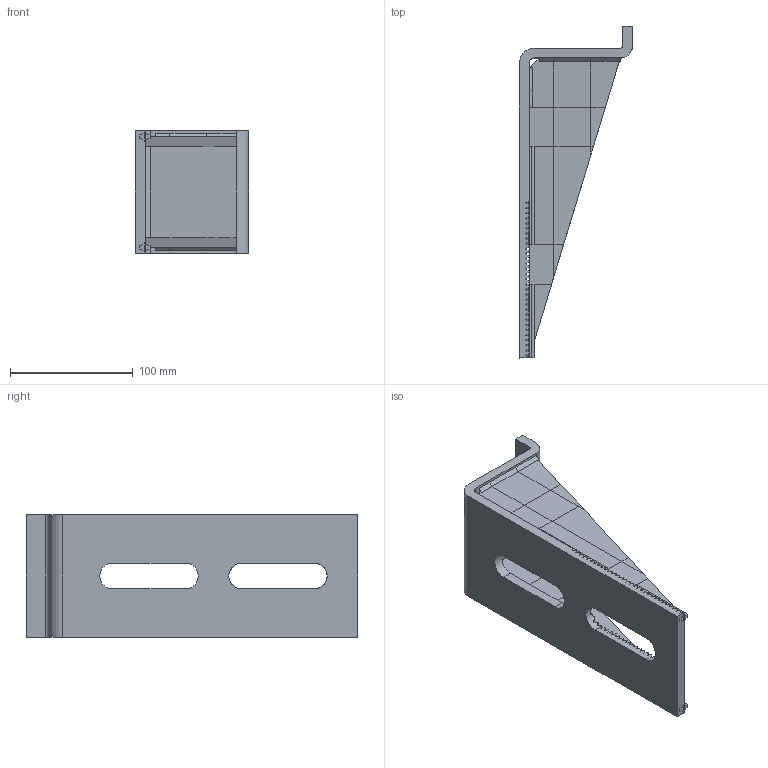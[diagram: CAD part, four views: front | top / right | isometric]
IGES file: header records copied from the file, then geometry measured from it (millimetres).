
Start section: 3D InterOp IGES (Version 26 1 0), Spatial Corp. Copyright (c) 1999-2007.
Global section: file name: MP6T.igs; native system: Spatial Corp.; preprocessor: 3D InterOp GENERIC/IGES 3.0; author: Noname; organization: Noname; date: 20181022.130440; units: millimetre
Bounding box: 92 x 270 x 100 mm (x, y, z)
Surface area: 140881.4 mm2 (no closed solid volume)
Topology: 0 solids, 0 shells, 310 faces, 1618 edges, 1618 vertices
Faces by surface type: extrusion 300, revolution 10
